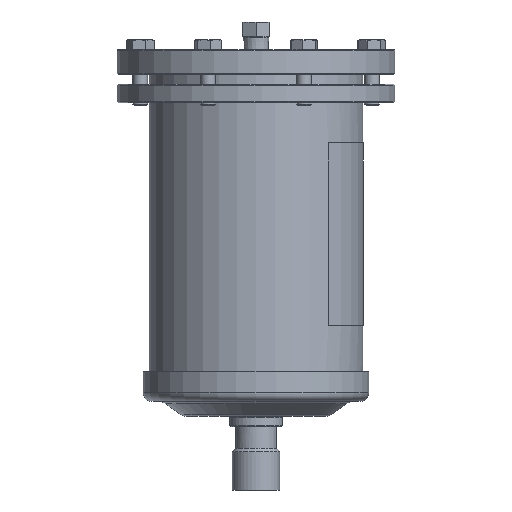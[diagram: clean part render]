
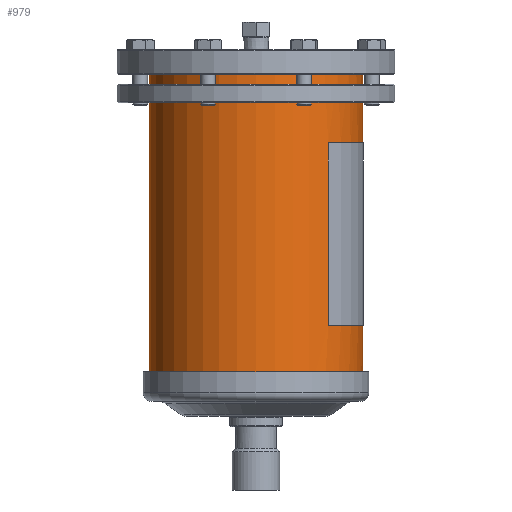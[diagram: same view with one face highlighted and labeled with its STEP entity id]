
A CAD part, left-side view. The second image highlights one B-rep face of the part: STEP entity #979.
In plain terms, the highlighted cylindrical face has radius 57.25 mm (diameter 114.5 mm), a full revolution.
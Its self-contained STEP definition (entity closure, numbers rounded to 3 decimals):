
#147=B_SPLINE_CURVE_WITH_KNOTS('',3,(#7726,#7727,#7728,#7729,#7730,#7731,
#7732,#7733,#7734,#7735,#7736,#7737,#7738,#7739,#7740,#7741,#7742,#7743),
.UNSPECIFIED.,.T.,.F.,(2,2,2,2,2,2,2,2,2,2,2),(-0.125,0.,0.125,0.25,0.375,
0.5,0.625,0.75,0.875,1.,1.125),.UNSPECIFIED.);
#346=LINE('',#7721,#576);
#347=LINE('',#7725,#577);
#576=VECTOR('',#5952,1.);
#577=VECTOR('',#5955,1.);
#879=CYLINDRICAL_SURFACE('',#5194,57.25);
#979=ADVANCED_FACE('',(#1735,#1736,#1737,#1738),#879,.T.);
#1735=FACE_BOUND('',#2005,.T.);
#1736=FACE_BOUND('',#2006,.T.);
#1737=FACE_BOUND('',#2007,.T.);
#1738=FACE_BOUND('',#2008,.T.);
#2005=EDGE_LOOP('',(#2679,#2680,#2681,#2682));
#2006=EDGE_LOOP('',(#2683));
#2007=EDGE_LOOP('',(#2684));
#2008=EDGE_LOOP('',(#2685));
#2679=ORIENTED_EDGE('',*,*,#4327,.T.);
#2680=ORIENTED_EDGE('',*,*,#4328,.T.);
#2681=ORIENTED_EDGE('',*,*,#4329,.F.);
#2682=ORIENTED_EDGE('',*,*,#4330,.F.);
#2683=ORIENTED_EDGE('',*,*,#4331,.T.);
#2684=ORIENTED_EDGE('',*,*,#4297,.T.);
#2685=ORIENTED_EDGE('',*,*,#4332,.T.);
#3806=VERTEX_POINT('',#7469);
#3833=VERTEX_POINT('',#7719);
#3834=VERTEX_POINT('',#7720);
#3835=VERTEX_POINT('',#7722);
#3836=VERTEX_POINT('',#7724);
#3837=VERTEX_POINT('',#7744);
#3838=VERTEX_POINT('',#7746);
#4297=EDGE_CURVE('',#3806,#3806,#4887,.T.);
#4327=EDGE_CURVE('',#3833,#3834,#4896,.T.);
#4328=EDGE_CURVE('',#3834,#3835,#346,.T.);
#4329=EDGE_CURVE('',#3836,#3835,#4897,.T.);
#4330=EDGE_CURVE('',#3833,#3836,#347,.T.);
#4331=EDGE_CURVE('',#3837,#3837,#147,.T.);
#4332=EDGE_CURVE('',#3838,#3838,#4898,.T.);
#4887=CIRCLE('',#5179,57.25);
#4896=CIRCLE('',#5191,57.25);
#4897=CIRCLE('',#5192,57.25);
#4898=CIRCLE('',#5193,57.25);
#5179=AXIS2_PLACEMENT_3D('',#7468,#5918,#5919);
#5191=AXIS2_PLACEMENT_3D('',#7718,#5950,#5951);
#5192=AXIS2_PLACEMENT_3D('',#7723,#5953,#5954);
#5193=AXIS2_PLACEMENT_3D('',#7745,#5956,#5957);
#5194=AXIS2_PLACEMENT_3D('',#7747,#5958,#5959);
#5918=DIRECTION('',(0.,0.,1.));
#5919=DIRECTION('',(-1.,0.,0.));
#5950=DIRECTION('',(0.,0.,1.));
#5951=DIRECTION('',(1.,0.,0.));
#5952=DIRECTION('',(0.,0.,-1.));
#5953=DIRECTION('',(0.,0.,1.));
#5954=DIRECTION('',(1.,0.,0.));
#5955=DIRECTION('',(0.,0.,-1.));
#5956=DIRECTION('',(0.,0.,-1.));
#5957=DIRECTION('',(1.,0.,0.));
#5958=DIRECTION('',(0.,0.,-1.));
#5959=DIRECTION('',(-1.,0.,0.));
#7468=CARTESIAN_POINT('',(0.,0.,-103.));
#7469=CARTESIAN_POINT('',(-57.25,0.,-103.));
#7718=CARTESIAN_POINT('',(0.,0.,31.5));
#7719=CARTESIAN_POINT('',(-42.209,-38.678,31.5));
#7720=CARTESIAN_POINT('',(21.909,-52.892,31.5));
#7721=CARTESIAN_POINT('',(21.909,-52.892,31.5));
#7722=CARTESIAN_POINT('',(21.909,-52.892,-66.5));
#7723=CARTESIAN_POINT('',(0.,0.,-66.5));
#7724=CARTESIAN_POINT('',(-42.209,-38.678,-66.5));
#7725=CARTESIAN_POINT('',(-42.209,-38.678,31.5));
#7726=CARTESIAN_POINT('',(57.25,3.975,-15.1));
#7727=CARTESIAN_POINT('',(57.25,-3.975,-15.1));
#7728=CARTESIAN_POINT('',(56.779,-7.83,-13.413));
#7729=CARTESIAN_POINT('',(55.763,-13.254,-7.843));
#7730=CARTESIAN_POINT('',(55.293,-14.839,-3.931));
#7731=CARTESIAN_POINT('',(55.292,-14.843,3.917));
#7732=CARTESIAN_POINT('',(55.759,-13.276,7.823));
#7733=CARTESIAN_POINT('',(56.785,-7.8,13.442));
#7734=CARTESIAN_POINT('',(57.25,-3.934,15.1));
#7735=CARTESIAN_POINT('',(57.25,3.934,15.1));
#7736=CARTESIAN_POINT('',(56.785,7.799,13.444));
#7737=CARTESIAN_POINT('',(55.757,13.284,7.813));
#7738=CARTESIAN_POINT('',(55.293,14.842,3.924));
#7739=CARTESIAN_POINT('',(55.293,14.839,-3.934));
#7740=CARTESIAN_POINT('',(55.763,13.254,-7.845));
#7741=CARTESIAN_POINT('',(56.78,7.824,-13.417));
#7742=CARTESIAN_POINT('',(57.25,3.975,-15.1));
#7743=CARTESIAN_POINT('',(57.25,-3.975,-15.1));
#7744=CARTESIAN_POINT('',(57.25,0.,-15.1));
#7745=CARTESIAN_POINT('',(0.,0.,69.5));
#7746=CARTESIAN_POINT('',(57.25,0.,69.5));
#7747=CARTESIAN_POINT('',(0.,0.,70.));
